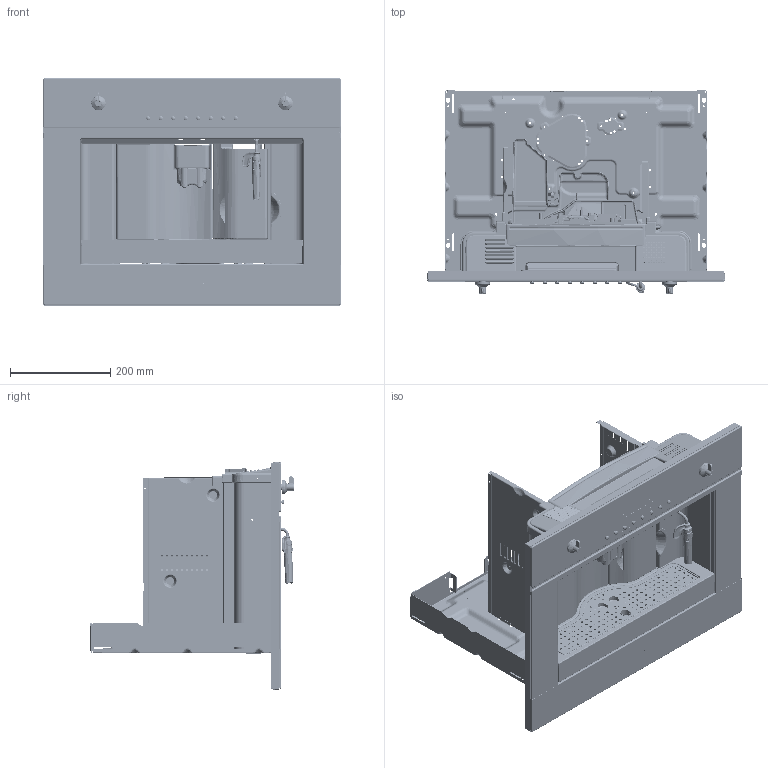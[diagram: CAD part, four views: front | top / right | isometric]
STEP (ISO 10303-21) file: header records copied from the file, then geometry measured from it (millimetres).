
FILE_DESCRIPTION(/* description */ (''),/* implementation_level */ '2;1');
FILE_NAME(/* name */ 'pippo.stp',/* time_stamp */ '2015-12-01T15:07:13+01:00',/* author */ (''),/* organization */ (''),/* preprocessor_version */ 'ST-DEVELOPER v11',/* originating_system */ 'SIEMENS PLM Software NX 7.5',/* authorisation */ '');
FILE_SCHEMA (('AUTOMOTIVE_DESIGN { 1 0 10303 214 1 1 1 1 }'));
Products named in the file (1): FAVE916Fo5sf
Bounding box: 595 x 406.4 x 455 mm (x, y, z)
Volume: 2887167.2 mm3; surface area: 3419455.8 mm2
Topology: 63 solids, 64 shells, 19879 faces, 54120 edges, 33886 vertices
Faces by surface type: plane 6818, cylinder 6364, bspline 2739, cone 1291, torus 1047, sphere 927, extrusion 682, revolution 11
Entity records: 874262 total; most frequent: CARTESIAN_POINT 371263, ORIENTED_EDGE 106148, DIRECTION 83500, EDGE_CURVE 53074, VERTEX_POINT 33880, AXIS2_PLACEMENT_3D 30651, VECTOR 22187, EDGE_LOOP 21694
